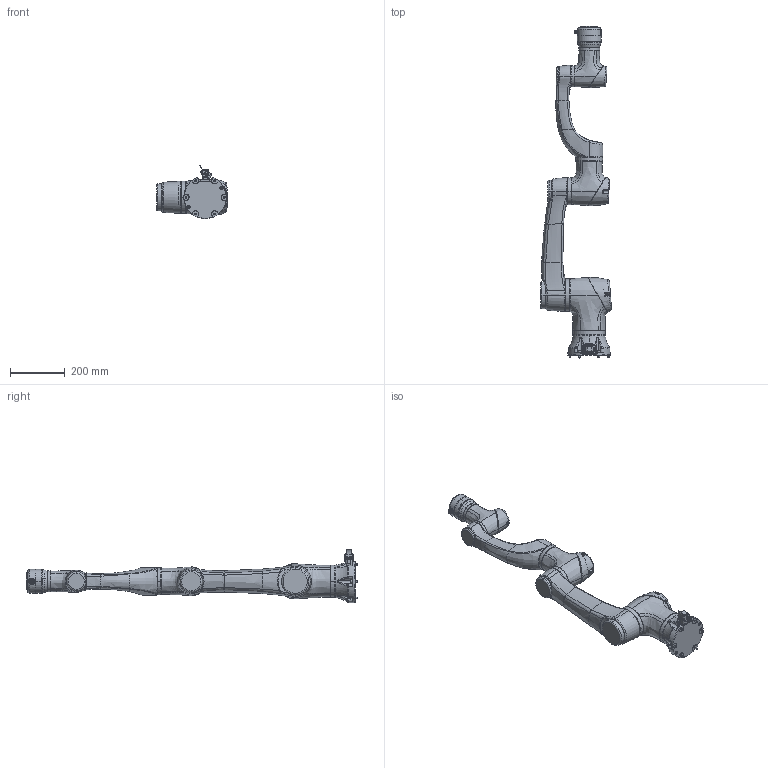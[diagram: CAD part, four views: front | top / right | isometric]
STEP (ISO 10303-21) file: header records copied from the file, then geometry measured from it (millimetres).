
FILE_DESCRIPTION (( 'STEP AP203' ), '1' );
FILE_NAME ('E05-pro儂迮忒_20230227.STEP', '2023-03-06T00:18:33', ( '' ), ( '' ), 'SwSTEP 2.0', 'SolidWorks 2020', '' );
FILE_SCHEMA (( 'CONFIG_CONTROL_DESIGN' ));
Length unit declared in the file: millimetre
Products named in the file (31): 14粣_酗粣_IP66_潠趙; M3x14_IP66_20190806_2.0_CB3-16; M3x28_CB3-16; 20模组后端盖模型_20220705_原始; 5kg菁釱耀倰_20220706; 5kg狟旋奻耜裔耀倰_20220706; E05狟旋耀倰_20220706; M3x20_20190806_1.1_CB3-14; Elfin_菁釱脣芛_IP66_20190806_1.1; 25axial_module_耀倰_20220705; 14_一体化力矩末端2.0_简化_20230227; HREF-01-04-03-122A1 14轴端垫圈_IP66_简化; HREF-01-04-03-187A1 14耀郪綴傷裔_潠趙; Elfin_底座组件_插头卡环_IP66_20190806_1.1; HREF-01-04-01-165A1 25壽誹俋褲YZ; 5kg奻旋耜裔耀倰_20220706; Elfin_菁釱郪璃_脣芛裔_IP66_20190806_1.1; E05奻旋耀倰_20220705; HREF-01-03-31A3 5kg奻旋階裔_IP66_潠趙; M3x10_20190806_1.1_CB3-14; E05-pro儂迮忒_20230227; 20耀郪妗昜耀倰_20220705; HREF-01-03-324A 14关节外壳（砂纹白）_简化; HREF-01-04-01-203A1 25模组后端盖_增加锥形孔; E05_菁釱郪璃耀倰_20220706; Elfin_菁釱郪璃_脣芛釱_IP66_20190806_1.1; E05_下臂组件_实物模型_20220706; 5kg狟旋狟耜裔耀倰_20220706; E05-pro奻旋耀倰_20230227; 20axial_module_耀倰_20220705; GB／T70．1-2000内六角圆柱头螺钉M6×20
Assembly tree (42 placements, depth 4):
  E05-pro儂迮忒_20230227
    E05_菁釱郪璃耀倰_20220706
      Elfin_菁釱脣芛_IP66_20190806_1.1
        Elfin_菁釱郪璃_脣芛釱_IP66_20190806_1.1
        Elfin_菁釱郪璃_脣芛裔_IP66_20190806_1.1
        Elfin_底座组件_插头卡环_IP66_20190806_1.1
      5kg菁釱耀倰_20220706
    25axial_module_耀倰_20220705
      M3x14_IP66_20190806_2.0_CB3-16  x4
      HREF-01-04-01-165A1 25壽誹俋褲YZ
      HREF-01-04-01-203A1 25模组后端盖_增加锥形孔
    E05_下臂组件_实物模型_20220706
      E05狟旋耀倰_20220706
      5kg狟旋狟耜裔耀倰_20220706
      5kg狟旋奻耜裔耀倰_20220706
    20axial_module_耀倰_20220705
      M3x20_20190806_1.1_CB3-14  x2
      M3x10_20190806_1.1_CB3-14  x2
      20耀郪妗昜耀倰_20220705
      20模组后端盖模型_20220705_原始
    E05-pro奻旋耀倰_20230227
      E05奻旋耀倰_20220705
      5kg奻旋耜裔耀倰_20220706
      HREF-01-03-31A3 5kg奻旋階裔_IP66_潠趙
    14粣_酗粣_IP66_潠趙
      HREF-01-03-324A 14关节外壳（砂纹白）_简化
      HREF-01-04-03-122A1 14轴端垫圈_IP66_简化  x2
      HREF-01-04-03-187A1 14耀郪綴傷裔_潠趙
      M3x28_CB3-16  x2
    14_一体化力矩末端2.0_简化_20230227
    GB／T70．1-2000内六角圆柱头螺钉M6×20  x6
Bounding box: 258.94 x 1213.8 x 194.91 mm (x, y, z)
Volume: 11607966.8 mm3; surface area: 950291.8 mm2
Topology: 72 solids, 77 shells, 3394 faces, 8113 edges, 4992 vertices
Faces by surface type: plane 995, bspline 987, cylinder 815, cone 356, torus 233, sphere 8
Entity records: 261485 total; most frequent: CARTESIAN_POINT 192583, ORIENTED_EDGE 15006, DIRECTION 11517, EDGE_CURVE 7503, VERTEX_POINT 4664, AXIS2_PLACEMENT_3D 4646, EDGE_LOOP 3409, FACE_OUTER_BOUND 3134
